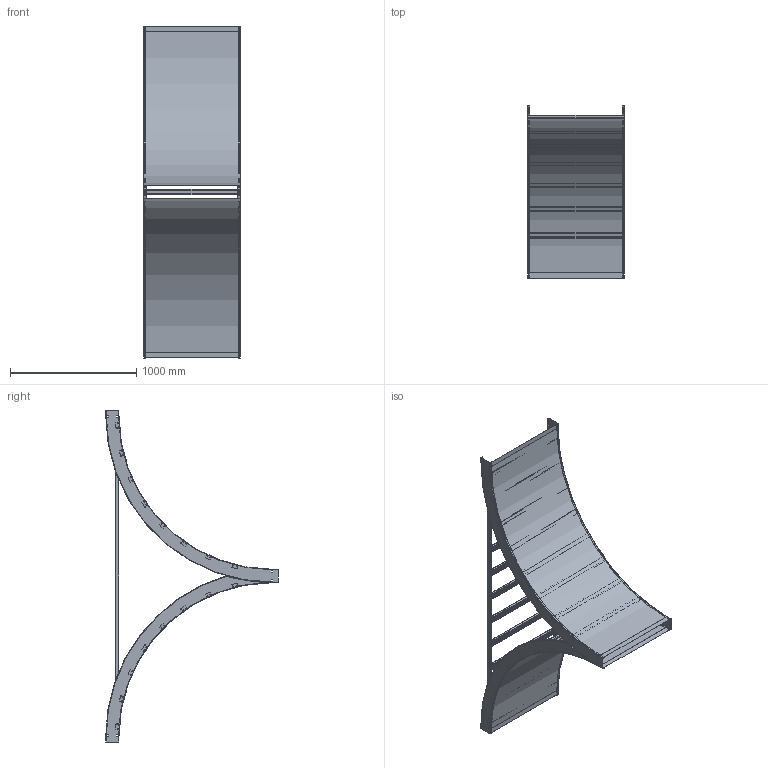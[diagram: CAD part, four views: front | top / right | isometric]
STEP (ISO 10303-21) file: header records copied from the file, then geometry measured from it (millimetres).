
FILE_DESCRIPTION((''),'2;1');
FILE_NAME('AUF430SVTD48_ASM','2010-01-27T',('erouzier'),(''),'PRO/ENGINEER BY PARAMETRIC TECHNOLOGY CORPORATION, 2008510','PRO/ENGINEER BY PARAMETRIC TECHNOLOGY CORPORATION, 2008510','');
FILE_SCHEMA(('CONFIG_CONTROL_DESIGN'));
Length unit declared in the file: inch
Products named in the file (8): CDS001416_4_90_48; CDS001416_4_90_48_AF2; CDS001416_4_90_48_AF3; CDS002159L30; CDS003665_90_48_30; CDS000495_GEN_AF0; CDS000495_GEN_AF1; AUF430SVTD48_ASM
Assembly tree (31 placements, depth 2):
  AUF430SVTD48_ASM
    CDS001416_4_90_48  x2
    CDS001416_4_90_48_AF2
    CDS001416_4_90_48_AF3
    CDS002159L30  x23
    CDS003665_90_48_30  x2
    CDS000495_GEN_AF0
    CDS000495_GEN_AF1
Bounding box: 768.35 x 1369.24 x 2633.34 mm (x, y, z)
Volume: 8147061.4 mm3; surface area: 12736262.9 mm2
Topology: 31 solids, 31 shells, 936 faces, 2500 edges, 1626 vertices
Faces by surface type: plane 615, cylinder 305, torus 16
Entity records: 6325 total; most frequent: CARTESIAN_POINT 1146, DIRECTION 1086, ORIENTED_EDGE 976, EDGE_CURVE 488, AXIS2_PLACEMENT_3D 365, VECTOR 356, LINE 356, VERTEX_POINT 298
